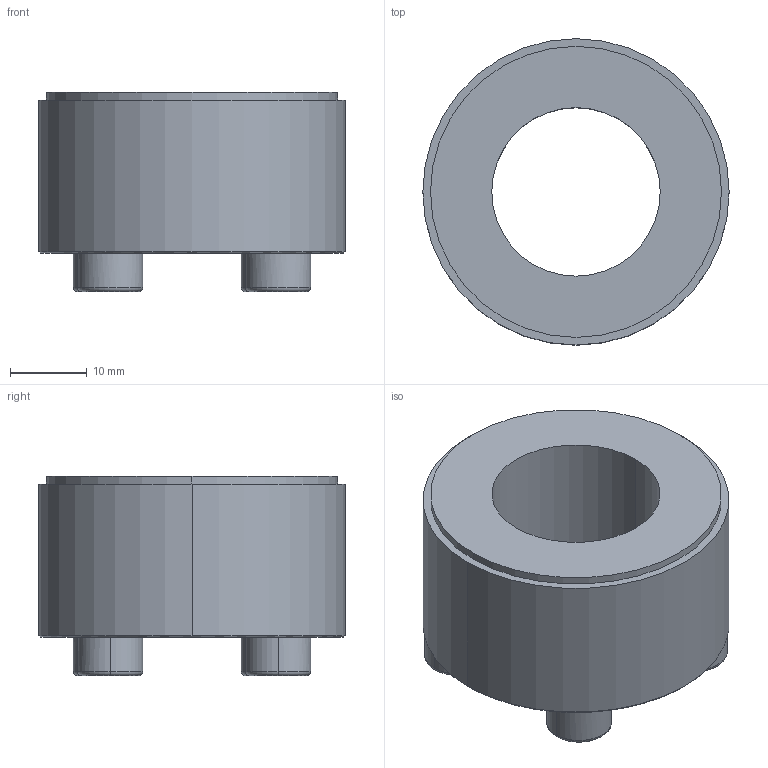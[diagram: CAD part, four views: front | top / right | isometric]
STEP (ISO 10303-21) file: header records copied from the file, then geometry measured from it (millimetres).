
FILE_DESCRIPTION (( 'STEP AP203' ), '1' );
FILE_NAME ('PL-B 22-40.STEP', '2021-10-22T07:46:25', ( '' ), ( '' ), 'SwSTEP 2.0', 'SolidWorks 2018', '' );
FILE_SCHEMA (( 'CONFIG_CONTROL_DESIGN' ));
Length unit declared in the file: millimetre
Products named in the file (1): PL-B 22-40
Bounding box: 40 x 40 x 26 mm (x, y, z)
Volume: 19270.9 mm3; surface area: 6463.5 mm2
Topology: 1 solids, 1 shells, 61 faces, 138 edges, 88 vertices
Faces by surface type: plane 35, cylinder 14, torus 8, cone 4
Entity records: 1785 total; most frequent: DIRECTION 310, CARTESIAN_POINT 288, ORIENTED_EDGE 276, EDGE_CURVE 138, AXIS2_PLACEMENT_3D 110, LINE 90, VECTOR 90, VERTEX_POINT 88
